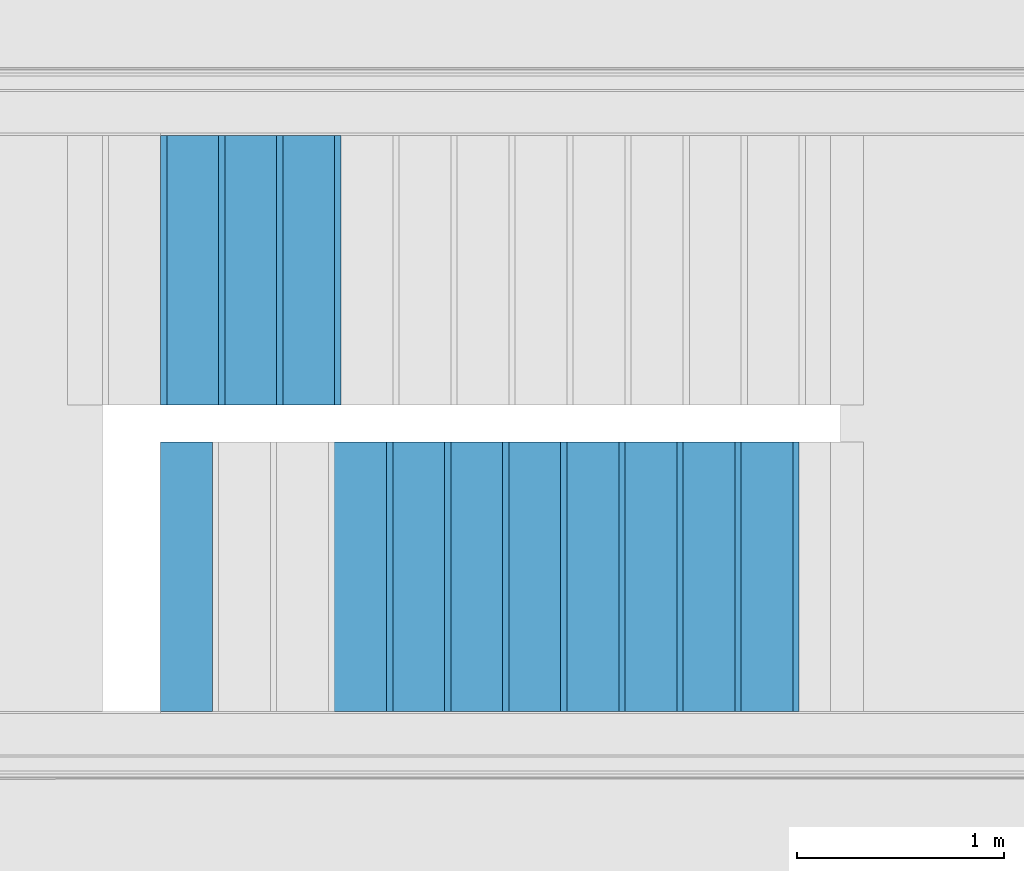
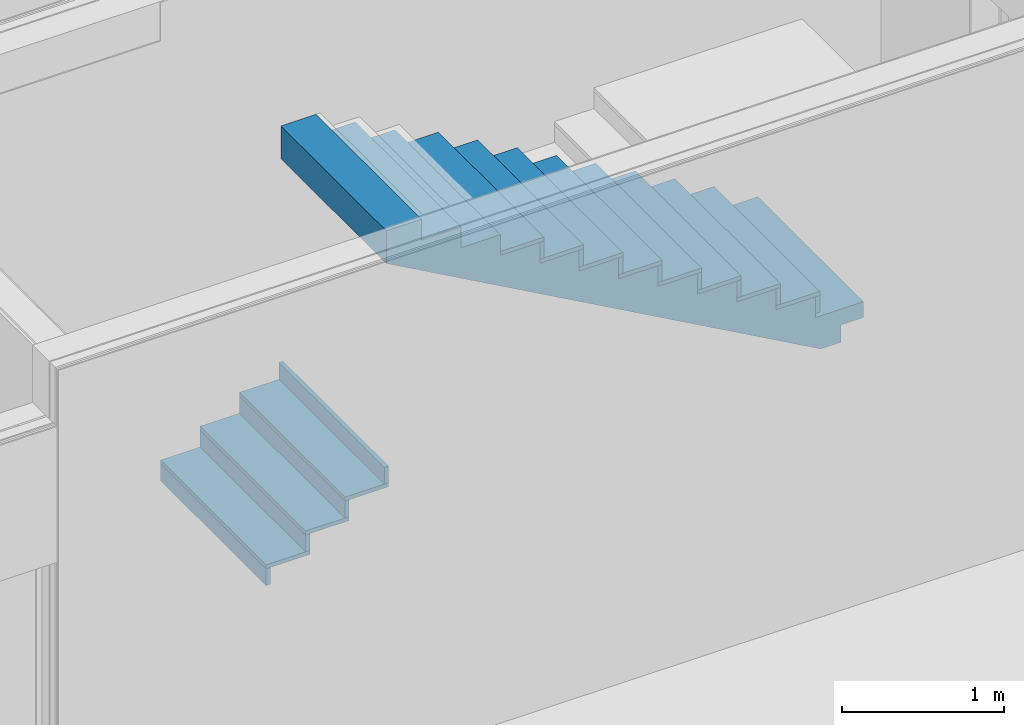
# One storey, part 44 of 139: 24 members, 1 element without a shape of its own.
"""IFC2X3 building model written with IfcOpenShell, lengths in millimetres."""

import ifcopenshell
import ifcopenshell.guid

model = None  # the IFC model being written
_history = None  # IfcOwnerHistory: only IFC2X3 demands one
_inside = {}  # id of a spatial element -> (the spatial element, [elements in it])
_under = {}  # id of a project, library or spatial element -> (it, [spatial elements below it])
_declared = {}  # id of a project -> (the project, [libraries it declares])
_typed = {}  # id of a type object -> (the type object, [elements of that type])
_made_of = {}  # id of a material, layer set ... -> (it, [elements and type objects made of it])


def new_model(schema):
    """Start an empty IFC model of exactly this schema.

    Asked for "IFC4X3", IfcOpenShell would pick the latest addendum, in which some entities
    have other attributes; the version numbers below select the first issue.
    IFC2X3 requires an IfcOwnerHistory on every rooted entity: one is made here for all.
    """
    global model, _history
    if schema == "IFC4X3":
        model = ifcopenshell.file(schema_version=(4, 3, 0, 0))
    else:
        model = ifcopenshell.file(schema=schema)
    _inside.clear()
    _under.clear()
    _declared.clear()
    _typed.clear()
    _made_of.clear()
    _history = None
    if model.schema == "IFC2X3":
        org = make("IfcOrganization", Name="unknown")
        user = make(
            "IfcPersonAndOrganization",
            ThePerson=make("IfcPerson", FamilyName="unknown"),
            TheOrganization=org,
        )
        app = make(
            "IfcApplication",
            ApplicationDeveloper=org,
            Version="unknown",
            ApplicationFullName="unknown",
            ApplicationIdentifier="unknown",
        )
        _history = make(
            "IfcOwnerHistory",
            OwningUser=user,
            OwningApplication=app,
            ChangeAction="ADDED",
            CreationDate=0,
        )
    return model


def make(cls, **values):
    """One entity of the class cls with the attributes given. An attribute that is None is left unset."""
    return model.create_entity(
        cls, **{name: value for name, value in values.items() if value is not None}
    )


def entity(cls, *values):
    """Any entity or typed value of the class cls, its attributes in the order of the schema. None: left unset."""
    e = model.create_entity(cls)
    for i, value in enumerate(values):
        if value is not None:
            e[i] = value
    return e


def rooted(cls, **values):
    """An entity with a GlobalId (a new one), such as an element, a storey or a relation."""
    return make(cls, GlobalId=ifcopenshell.guid.new(), OwnerHistory=_history, **values)


def si_unit(unit_type, name, prefix=None):
    """IfcSIUnit, for example si_unit("LENGTHUNIT", "METRE", prefix="MILLI")."""
    return make("IfcSIUnit", UnitType=unit_type, Prefix=prefix, Name=name)


def converted_unit(unit_type, name, factor, base, dimensions=None, offset=None):
    """IfcConversionBasedUnit, such as the inch: factor (a typed value) times the base unit."""
    return make(
        "IfcConversionBasedUnit"
        if offset is None
        else "IfcConversionBasedUnitWithOffset",
        ConversionOffset=offset,
        Dimensions=None
        if dimensions is None
        else entity("IfcDimensionalExponents", *dimensions),
        UnitType=unit_type,
        Name=name,
        ConversionFactor=make(
            "IfcMeasureWithUnit", ValueComponent=factor, UnitComponent=base
        ),
    )


def derived_unit(unit_type, elements):
    """IfcDerivedUnit: a product of units, each with its exponent."""
    return make(
        "IfcDerivedUnit",
        Elements=[
            make("IfcDerivedUnitElement", Unit=unit, Exponent=power)
            for unit, power in elements
        ],
        UnitType=unit_type,
    )


def money_unit(currency):
    """IfcMonetaryUnit."""
    return make("IfcMonetaryUnit", Currency=currency)


def assignment(units):
    """IfcUnitAssignment: the units of a project."""
    return None if units is None else make("IfcUnitAssignment", Units=units)


def point(xyz):
    """IfcCartesianPoint."""
    return None if xyz is None else make("IfcCartesianPoint", Coordinates=xyz)


def direction(xyz):
    """IfcDirection."""
    return None if xyz is None else make("IfcDirection", DirectionRatios=xyz)


def frame(location, z_axis=None, x_axis=None):
    """IfcAxis2Placement3D, a coordinate frame: its origin and axes. An axis left out is left unset."""
    return make(
        "IfcAxis2Placement3D",
        Location=point(location),
        Axis=direction(z_axis),
        RefDirection=direction(x_axis),
    )


def origin_with_axes():
    """The frame at (0, 0, 0) with the z axis (0, 0, 1) and the x axis (1, 0, 0) written out."""
    return frame((0.0, 0.0, 0.0), z_axis=(0.0, 0.0, 1.0), x_axis=(1.0, 0.0, 0.0))


def place(relative_to, where):
    """IfcLocalPlacement: puts the frame where relative to a parent placement (None: the world)."""
    return make(
        "IfcLocalPlacement", PlacementRelTo=relative_to, RelativePlacement=where
    )


def context(
    kind, dimensions, precision=None, world=None, true_north=None, identifier=None
):
    """IfcGeometricRepresentationContext, for example the 3D "Model" context."""
    return make(
        "IfcGeometricRepresentationContext",
        ContextIdentifier=identifier,
        ContextType=kind,
        CoordinateSpaceDimension=dimensions,
        Precision=precision,
        WorldCoordinateSystem=world,
        TrueNorth=true_north,
    )


def subcontext(parent, identifier, kind, view, scale=None):
    """IfcGeometricRepresentationSubContext, for example "Body" below "Model"."""
    return make(
        "IfcGeometricRepresentationSubContext",
        ContextIdentifier=identifier,
        ContextType=kind,
        ParentContext=parent,
        TargetScale=scale,
        TargetView=view,
    )


def project(units=None, contexts=None):
    """IfcProject with its units and contexts."""
    return rooted(
        "IfcProject",
        Name="project",
        RepresentationContexts=contexts,
        UnitsInContext=assignment(units),
    )


def spatial(cls, under=None, at=None, **own):
    """A site, building, storey or space (cls), placed at a placement, below another one or the project."""
    s = rooted(cls, ObjectPlacement=at, **own)
    if under is not None:
        _under.setdefault(under.id(), (under, []))[1].append(s)
    return s


def faces_of(points, faces, orient=None, outer=None):
    """IfcFace entities. A face is a list of loops; a loop is a list of indices into points, from 0.

    orient and outer hold one flag for each loop. By default every Orientation is true, the
    first loop of a face is its IfcFaceOuterBound and the others are IfcFaceBound.
    """
    made = []
    for i, loops in enumerate(faces):
        bounds = []
        for j, loop in enumerate(loops):
            is_outer = j == 0 if outer is None else outer[i][j]
            bounds.append(
                make(
                    "IfcFaceOuterBound" if is_outer else "IfcFaceBound",
                    Bound=make("IfcPolyLoop", Polygon=[points[k] for k in loop]),
                    Orientation=True if orient is None else orient[i][j],
                )
            )
        made.append(make("IfcFace", Bounds=bounds))
    return made


def faceted_brep(points, faces, orient=None, outer=None, voids=None):
    """IfcFacetedBrep: a solid bounded by flat faces; with voids (closed shells), ...WithVoids."""
    shared = [point(p) for p in points]
    hull = make("IfcClosedShell", CfsFaces=faces_of(shared, faces, orient, outer))
    if voids is None:
        return make("IfcFacetedBrep", Outer=hull)
    return make(
        "IfcFacetedBrepWithVoids",
        Outer=hull,
        Voids=[
            make(cls, CfsFaces=faces_of(shared, fs, o, b)) for cls, fs, o, b in voids
        ],
    )


def shape(context_of_items, identifier, shape_type, items):
    """IfcShapeRepresentation: the items that make up one representation, for example the "Body"."""
    return make(
        "IfcShapeRepresentation",
        ContextOfItems=context_of_items,
        RepresentationIdentifier=identifier,
        RepresentationType=shape_type,
        Items=items,
    )


def material(Name=None, Category=None):
    """IfcMaterial."""
    return make("IfcMaterial", Name=Name, Category=Category)


def made_of(thing, what):
    """Note that an element or type object is made of a material, layer set ...; save() writes the relation."""
    if what is not None:
        _made_of.setdefault(what.id(), (what, []))[1].append(thing)
    return thing


def type_object(cls, material=None, **own):
    """A type object (cls), such as IfcWallType, which elements share."""
    return made_of(rooted(cls, **own), material)


def element(
    cls,
    number,
    at=None,
    inside=None,
    cuts=None,
    type_object=None,
    material=None,
    context=None,
    identifier="Body",
    shape_type=None,
    held_by="IfcProductDefinitionShape",
    body=None,
    shapes=None,
    **own,
):
    """One element of the class cls, such as IfcWall. Its Tag is "e" and its number.

    at: its placement. inside: the storey or other place that contains it. cuts: it is an
    opening in that element (IfcRelVoidsElement). A single representation is given by context,
    identifier, shape_type and body (its items); several are given by shapes. held_by: the class
    of the entity that holds the representations. save() writes the other relations.
    """
    e = rooted(cls, Tag="e%d" % number, ObjectPlacement=at, **own)
    if body is not None:
        shapes = [shape(context, identifier, shape_type, body)]
    if shapes is not None:
        e.Representation = make(held_by, Representations=shapes)
    if inside is not None:
        _inside.setdefault(inside.id(), (inside, []))[1].append(e)
    if cuts is not None:
        rooted(
            "IfcRelVoidsElement", RelatingBuildingElement=cuts, RelatedOpeningElement=e
        )
    if type_object is not None:
        _typed.setdefault(type_object.id(), (type_object, []))[1].append(e)
    return made_of(e, material)


def aggregate(whole, parts):
    """IfcRelAggregates: a whole, such as a stair, and the parts it consists of."""
    return rooted("IfcRelAggregates", RelatingObject=whole, RelatedObjects=parts)


def save(model, path):
    """Write the relations noted so far, then the file.

    IfcRelAggregates (storeys below a building ...), IfcRelContainedInSpatialStructure (elements
    in a storey), IfcRelDefinesByType, IfcRelAssociatesMaterial and IfcRelDeclares: one each for
    every whole, place, type object, material and project.
    """
    for whole, parts in _under.values():
        aggregate(whole, parts)
    for where, things in _inside.values():
        rooted(
            "IfcRelContainedInSpatialStructure",
            RelatedElements=things,
            RelatingStructure=where,
        )
    for kind, things in _typed.values():
        rooted("IfcRelDefinesByType", RelatedObjects=things, RelatingType=kind)
    for what, things in _made_of.values():
        rooted("IfcRelAssociatesMaterial", RelatedObjects=things, RelatingMaterial=what)
    for by, libraries in _declared.values():
        rooted("IfcRelDeclares", RelatingContext=by, RelatedDefinitions=libraries)
    model.write(path)


model = new_model("IFC2X3")

# Units and contexts
model_context = context("Model", 3, precision=0.01, world=origin_with_axes(), true_north=direction((0.0, 1.0)))
body_context = subcontext(model_context, "Body", "Model", "MODEL_VIEW")
ifc_project = project(units=[si_unit("LENGTHUNIT", "METRE", prefix="MILLI"), si_unit("AREAUNIT", "SQUARE_METRE"), si_unit("VOLUMEUNIT", "CUBIC_METRE"), converted_unit("PLANEANGLEUNIT", "DEGREE", entity("IfcPlaneAngleMeasure", 0.0174532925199), si_unit("PLANEANGLEUNIT", "RADIAN"), dimensions=[0, 0, 0, 0, 0, 0, 0]), money_unit("EUR"), converted_unit("TIMEUNIT", "Year", entity("IfcTimeMeasure", 31556926.0), si_unit("TIMEUNIT", "SECOND"), dimensions=[0, 0, 1, 0, 0, 0, 0]), si_unit("MASSUNIT", "GRAM", prefix="KILO"), si_unit("THERMODYNAMICTEMPERATUREUNIT", "DEGREE_CELSIUS"), si_unit("LUMINOUSINTENSITYUNIT", "LUMEN"), si_unit("ENERGYUNIT", "JOULE", prefix="MEGA"), derived_unit("THERMALCONDUCTANCEUNIT", [(si_unit("POWERUNIT", "WATT"), 1), (si_unit("LENGTHUNIT", "METRE"), -1), (si_unit("THERMODYNAMICTEMPERATUREUNIT", "KELVIN"), -1)]), derived_unit("SPECIFICHEATCAPACITYUNIT", [(si_unit("ENERGYUNIT", "JOULE"), 1), (si_unit("MASSUNIT", "GRAM", prefix="KILO"), -1), (si_unit("THERMODYNAMICTEMPERATUREUNIT", "KELVIN"), -1)]), derived_unit("MASSDENSITYUNIT", [(si_unit("MASSUNIT", "GRAM", prefix="KILO"), 1), (si_unit("VOLUMEUNIT", "CUBIC_METRE"), -1)])], contexts=[model_context])

# Site, building, storey
site_placement = place(None, origin_with_axes())
site = spatial("IfcSite", under=ifc_project, at=site_placement, Name="Kolde pst 67a", CompositionType="ELEMENT")
building_placement = place(site_placement, origin_with_axes())
building = spatial("IfcBuilding", under=site, at=building_placement, Name="Riigigümnaasium", CompositionType="ELEMENT")
storey_placement = place(building_placement, frame((0.0, 0.0, 4600.0), z_axis=(0.0, 0.0, 1.0), x_axis=(1.0, 0.0, 0.0)))
storey = spatial("IfcBuildingStorey", under=building, at=storey_placement, Name="2. korrus", CompositionType="ELEMENT", Elevation=4600.0)

# Stair, members
stair_placement = place(storey_placement, frame((78829.6164915, 9409.92216773, 0.0), z_axis=(0.0, 0.0, 1.0), x_axis=(0.999999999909, 1.34692449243e-05, 0.0)))
stair = element("IfcStair", 1, at=stair_placement, inside=storey, Name="TREPP", ShapeType="NOTDEFINED")
ifc_material_1 = material(Name="_KANDETARIND - raudbetoon C25/30 vastavalt EK osale")
member_type_1 = type_object("IfcMemberType", Name="IfcMember", PredefinedType="USERDEFINED")
member_1_placement = place(stair_placement, origin_with_axes())
member_1 = element("IfcMember", 2, at=member_1_placement, type_object=member_type_1, material=ifc_material_1, Name="TT KONSTRUKTSIOON - 009", ObjectType="Stair Structure", context=body_context, shape_type="Brep", body=[
    faceted_brep([(3359.99730585, -200.045179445, 1755.47584433), (3359.99730585, -1500.04519461, 1755.47584433), (3266.6639737, -1500.04519461, 1807.55917662), (3266.6639737, -200.045179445, 1807.55917662), (3367.57001894, -200.045179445, 1751.25), (3367.57001894, -1500.04519461, 1751.25), (3509.99730585, -1500.04519461, 1751.25), (3509.99730585, -1500.04519461, 1881.25), (3669.99729576, -1500.04519461, 1881.25), (3669.99729576, -1500.04519461, 2001.25), (3359.99730585, -1500.04519461, 2001.25), (3329.99730585, -1500.04519461, 2001.25), (3329.99730585, -1500.04519461, 2157.5), (3049.99730585, -1500.04519461, 2157.5), (3049.99730585, -1500.04519461, 2313.75), (2769.99730585, -1500.04519461, 2313.75), (2769.99730585, -1500.04519461, 2470.0), (2489.99730585, -1500.04519461, 2470.0), (2489.99730585, -1500.04519461, 2626.25), (2209.99730585, -1500.04519461, 2626.25), (2209.99730585, -1500.04519461, 2782.5), (1929.99730585, -1500.04519461, 2782.5), (1929.99730585, -1500.04519461, 2938.75), (1649.99730585, -1500.04519461, 2938.75), (1649.99730585, -1500.04519461, 3095.0), (1369.99730585, -1500.04519461, 3095.0), (1369.99730585, -1500.04519461, 3251.25), (1089.99730585, -1500.04519461, 3251.25), (1089.99730585, -1500.04519461, 3407.5), (809.997305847, -1500.04519461, 3407.5), (809.997305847, -1500.04519461, 3563.75), (529.997305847, -1500.04519461, 3563.75), (529.997305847, -1500.04519461, 3720.0), (279.997305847, -1500.04519461, 3720.0), (279.997305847, -1500.04519461, 3474.22584289), (373.33063918, -1500.04519461, 3422.14250956), (466.663972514, -1500.04519461, 3370.05917622), (559.997305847, -1500.04519461, 3317.97584289), (653.33063918, -1500.04519461, 3265.89250956), (746.663972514, -1500.04519461, 3213.80917622), (839.997305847, -1500.04519461, 3161.72584289), (933.33063918, -1500.04519461, 3109.64250956), (1026.66397251, -1500.04519461, 3057.55917622), (1119.99730585, -1500.04519461, 3005.47584289), (1213.33063918, -1500.04519461, 2953.39250956), (1306.66397251, -1500.04519461, 2901.30917622), (1399.99730585, -1500.04519461, 2849.22584289), (1493.33063918, -1500.04519461, 2797.14250956), (1586.66397251, -1500.04519461, 2745.05917622), (1679.99730585, -1500.04519461, 2692.97584289), (1773.33063918, -1500.04519461, 2640.89250956), (1866.66397251, -1500.04519461, 2588.80917622), (1959.99730585, -1500.04519461, 2536.72584289), (2053.33063918, -1500.04519461, 2484.64250956), (2146.66397251, -1500.04519461, 2432.55917622), (2239.99730585, -1500.04519461, 2380.47584289), (2333.33063918, -1500.04519461, 2328.39250955), (2426.66397251, -1500.04519461, 2276.30917622), (2519.99730585, -1500.04519461, 2224.22584288), (2613.33063918, -1500.04519461, 2172.14250954), (2706.66397251, -1500.04519461, 2120.0591762), (2799.99730585, -1500.04519461, 2067.97584287), (2893.33063918, -1500.04519461, 2015.89250965), (2986.66397251, -1500.04519461, 1963.80917643), (3079.99730585, -1500.04519461, 1911.72584324), (3173.33063977, -1500.04519461, 1859.64250991), (3173.33063977, -200.045179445, 1859.64250991), (3329.99730585, -200.04519841, 2001.25), (3359.99730585, -200.045179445, 2001.25), (3669.99729576, -200.045179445, 2001.25), (3669.99729576, -200.045179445, 1881.25), (3509.99730585, -200.045179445, 1881.25), (3509.99730585, -200.045179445, 1751.25), (3079.99730585, -200.045179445, 1911.72584324), (2986.66397251, -200.045194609, 1963.80917643), (2893.33063918, -200.045194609, 2015.89250965), (2799.99730585, -200.045194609, 2067.97584287), (2706.66397251, -200.045194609, 2120.0591762), (2613.33063918, -200.045194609, 2172.14250954), (2519.99730585, -200.045194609, 2224.22584288), (2426.66397251, -200.045194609, 2276.30917622), (2333.33063918, -200.045194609, 2328.39250955), (2239.99730585, -200.045194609, 2380.47584289), (2146.66397251, -200.045194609, 2432.55917622), (2053.33063918, -200.045194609, 2484.64250956), (1959.99730585, -200.045194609, 2536.72584289), (1866.66397251, -200.045194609, 2588.80917622), (1773.33063918, -200.045194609, 2640.89250956), (1679.99730585, -200.045194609, 2692.97584289), (1586.66397251, -200.045194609, 2745.05917622), (1493.33063918, -200.045194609, 2797.14250956), (1399.99730585, -200.045194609, 2849.22584289), (1306.66397251, -200.045194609, 2901.30917622), (1213.33063918, -200.045194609, 2953.39250956), (1119.99730585, -200.045194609, 3005.47584289), (1026.66397251, -200.045194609, 3057.55917622), (933.33063918, -200.045194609, 3109.64250956), (839.997305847, -200.045194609, 3161.72584289), (746.663972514, -200.045194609, 3213.80917622), (653.33063918, -200.045194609, 3265.89250956), (559.997305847, -200.045194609, 3317.97584289), (466.663972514, -200.045194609, 3370.05917622), (373.33063918, -200.045194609, 3422.14250956), (279.997305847, -200.045194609, 3474.22584289), (279.997305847, -200.045194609, 3720.0), (529.997305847, -200.045194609, 3720.0), (529.997305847, -200.045194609, 3563.75), (809.997305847, -200.045194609, 3563.75), (809.997305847, -200.045194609, 3407.5), (1089.99730585, -200.045194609, 3407.5), (1089.99730585, -200.045194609, 3251.25), (1369.99730585, -200.045194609, 3251.25), (1369.99730585, -200.045194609, 3095.0), (1649.99730585, -200.045194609, 3095.0), (1649.99730585, -200.045194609, 2938.75), (1929.99730585, -200.045194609, 2938.75), (1929.99730585, -200.045194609, 2782.5), (2209.99730585, -200.045194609, 2782.5), (2209.99730585, -200.045194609, 2626.25), (2489.99730585, -200.045194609, 2626.25), (2489.99730585, -200.045194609, 2470.0), (2769.99730585, -200.045194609, 2470.0), (2769.99730585, -200.045194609, 2313.75), (3049.99730585, -200.045194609, 2313.75), (3049.99730585, -200.045194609, 2157.5), (3329.99730585, -200.04519841, 2157.5)], [[[0, 1, 2, 3]], [[1, 0, 4, 5]], [[2, 1, 5, 6, 7, 8, 9, 10, 11, 12, 13, 14, 15, 16, 17, 18, 19, 20, 21, 22, 23, 24, 25, 26, 27, 28, 29, 30, 31, 32, 33, 34, 35, 36, 37, 38, 39, 40, 41, 42, 43, 44, 45, 46, 47, 48, 49, 50, 51, 52, 53, 54, 55, 56, 57, 58, 59, 60, 61, 62, 63, 64, 65]], [[65, 66, 3, 2]], [[67, 68, 69, 70, 71, 72, 4, 0, 3, 66, 73, 74, 75, 76, 77, 78, 79, 80, 81, 82, 83, 84, 85, 86, 87, 88, 89, 90, 91, 92, 93, 94, 95, 96, 97, 98, 99, 100, 101, 102, 103, 104, 105, 106, 107, 108, 109, 110, 111, 112, 113, 114, 115, 116, 117, 118, 119, 120, 121, 122, 123, 124, 125]], [[6, 5, 4, 72]], [[6, 72, 71, 7]], [[7, 71, 70, 8]], [[70, 69, 9, 8]], [[11, 10, 9, 69, 68, 67]], [[67, 125, 12, 11]], [[125, 124, 13, 12]], [[124, 123, 14, 13]], [[123, 122, 15, 14]], [[122, 121, 16, 15]], [[121, 120, 17, 16]], [[120, 119, 18, 17]], [[119, 118, 19, 18]], [[118, 117, 20, 19]], [[117, 116, 21, 20]], [[116, 115, 22, 21]], [[115, 114, 23, 22]], [[114, 113, 24, 23]], [[113, 112, 25, 24]], [[112, 111, 26, 25]], [[111, 110, 27, 26]], [[110, 109, 28, 27]], [[109, 108, 29, 28]], [[108, 107, 30, 29]], [[107, 106, 31, 30]], [[106, 105, 32, 31]], [[104, 33, 32, 105]], [[34, 33, 104, 103]], [[34, 103, 102, 35]], [[35, 102, 101, 36]], [[36, 101, 100, 37]], [[37, 100, 99, 38]], [[38, 99, 98, 39]], [[39, 98, 97, 40]], [[40, 97, 96, 41]], [[41, 96, 95, 42]], [[42, 95, 94, 43]], [[43, 94, 93, 44]], [[44, 93, 92, 45]], [[45, 92, 91, 46]], [[46, 91, 90, 47]], [[47, 90, 89, 48]], [[48, 89, 88, 49]], [[49, 88, 87, 50]], [[50, 87, 86, 51]], [[51, 86, 85, 52]], [[52, 85, 84, 53]], [[53, 84, 83, 54]], [[54, 83, 82, 55]], [[55, 82, 81, 56]], [[56, 81, 80, 57]], [[57, 80, 79, 58]], [[58, 79, 78, 59]], [[59, 78, 77, 60]], [[60, 77, 76, 61]], [[61, 76, 75, 62]], [[62, 75, 74, 63]], [[63, 74, 73, 64]], [[64, 73, 66, 65]]]),
])
ifc_material_2 = material(Name="_VIIMISTLUSKIHT - viimistlus vastavalt SA osale")
member_type_2 = type_object("IfcMemberType", Name="IfcMember", PredefinedType="USERDEFINED")
member_2_placement = place(stair_placement, frame((280.008743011, 649.99623371, 282.5), z_axis=(0.0, 0.0, 1.0), x_axis=(1.34508253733e-05, 0.99999999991, 0.0)))
member_2 = element("IfcMember", 3, at=member_2_placement, type_object=member_type_2, material=ifc_material_2, Name="TV TÕUS - 118", ObjectType="Stair Riser", context=body_context, shape_type="Brep", body=[
    faceted_brep([(629.949534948, 0.0, 0.0), (-670.0, 0.0, 0.0), (-670.0, -30.0, 0.0), (629.949534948, -30.0, 0.0), (629.949534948, 0.0, -126.25), (-670.0, 0.0, -126.25), (-670.0, -30.0, -126.25), (629.949534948, -30.0, -126.25)], [[[0, 1, 2, 3]], [[4, 5, 1, 0]], [[1, 5, 6, 2]], [[3, 2, 6, 7]], [[0, 3, 7, 4]], [[7, 6, 5, 4]]]),
])
member_3_placement = place(stair_placement, frame((560.008742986, 649.992467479, 438.75), z_axis=(0.0, 0.0, 1.0), x_axis=(1.34508253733e-05, 0.99999999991, 0.0)))
member_3 = element("IfcMember", 4, at=member_3_placement, type_object=member_type_2, material=ifc_material_2, Name="TV TÕUS - 119", ObjectType="Stair Riser", context=body_context, shape_type="Brep", body=[
    faceted_brep([(629.949534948, 0.0, 0.0), (-670.0, 0.0, 0.0), (-670.0, -30.0, 0.0), (629.949534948, -30.0, 0.0), (629.949534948, 0.0, -126.25), (-670.0, 0.0, -126.25), (-670.0, -30.0, -126.25), (629.949534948, -30.0, -126.25)], [[[0, 1, 2, 3]], [[4, 5, 1, 0]], [[1, 5, 6, 2]], [[3, 2, 6, 7]], [[0, 3, 7, 4]], [[7, 6, 5, 4]]]),
])
member_4_placement = place(stair_placement, frame((840.008742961, 649.988701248, 595.0), z_axis=(0.0, 0.0, 1.0), x_axis=(1.34508253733e-05, 0.99999999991, 0.0)))
member_4 = element("IfcMember", 5, at=member_4_placement, type_object=member_type_2, material=ifc_material_2, Name="TV TÕUS - 120", ObjectType="Stair Riser", context=body_context, shape_type="Brep", body=[
    faceted_brep([(629.949534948, 0.0, 0.0), (-670.0, 0.0, 0.0), (-670.0, -30.0, 0.0), (629.949534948, -30.0, 0.0), (629.949534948, 0.0, -126.25), (-670.0, 0.0, -126.25), (-670.0, -30.0, -126.25), (629.949534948, -30.0, -126.25)], [[[0, 1, 2, 3]], [[4, 5, 1, 0]], [[1, 5, 6, 2]], [[3, 2, 6, 7]], [[0, 3, 7, 4]], [[7, 6, 5, 4]]]),
])
member_5_placement = place(stair_placement, frame((1120.00874294, 649.984935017, 751.25), z_axis=(0.0, 0.0, 1.0), x_axis=(1.34508253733e-05, 0.99999999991, 0.0)))
member_5 = element("IfcMember", 6, at=member_5_placement, type_object=member_type_2, material=ifc_material_2, Name="TV TÕUS - 121", ObjectType="Stair Riser", context=body_context, shape_type="Brep", body=[
    faceted_brep([(629.949534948, 0.0, 0.0), (-670.0, 0.0, 0.0), (-670.0, -30.0, 0.0), (629.949534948, -30.0, 0.0), (629.949534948, 0.0, -126.25), (-670.0, 0.0, -126.25), (-670.0, -30.0, -126.25), (629.949534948, -30.0, -126.25)], [[[0, 1, 2, 3]], [[4, 5, 1, 0]], [[1, 5, 6, 2]], [[3, 2, 6, 7]], [[0, 3, 7, 4]], [[7, 6, 5, 4]]]),
])
member_6_placement = place(stair_placement, frame((3359.99730585, -850.045194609, 2157.5), z_axis=(0.0, 0.0, 1.0), x_axis=(0.0, -1.0, 0.0)))
member_6 = element("IfcMember", 7, at=member_6_placement, type_object=member_type_2, material=ifc_material_2, Name="TV TÕUS - 129", ObjectType="Stair Riser", context=body_context, shape_type="Brep", body=[
    faceted_brep([(650.0, -30.0, 0.0), (650.0, 0.0, 0.0), (-650.000000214, 0.0, 0.0), (-650.000000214, -30.0, 0.0), (650.0, 0.0, -126.25), (650.0, -30.0, -126.25), (-650.000000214, 0.0, -126.25), (-650.000000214, -30.0, -126.25)], [[[0, 1, 2, 3]], [[4, 1, 0, 5]], [[1, 4, 6, 2]], [[3, 2, 6, 7]], [[5, 0, 3, 7]], [[4, 5, 7, 6]]]),
])
member_7_placement = place(stair_placement, frame((3079.99730585, -850.045194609, 2313.75), z_axis=(0.0, 0.0, 1.0), x_axis=(0.0, -1.0, 0.0)))
member_7 = element("IfcMember", 8, at=member_7_placement, type_object=member_type_2, material=ifc_material_2, Name="TV TÕUS - 130", ObjectType="Stair Riser", context=body_context, shape_type="Brep", body=[
    faceted_brep([(650.0, 0.0, 0.0), (-650.000000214, 0.0, 0.0), (-650.000000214, -30.0, 0.0), (650.0, -30.0, 0.0), (650.0, 0.0, -126.25), (-650.000000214, 0.0, -126.25), (-650.000000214, -30.0, -126.25), (650.0, -30.0, -126.25)], [[[0, 1, 2, 3]], [[4, 5, 1, 0]], [[1, 5, 6, 2]], [[3, 2, 6, 7]], [[0, 3, 7, 4]], [[7, 6, 5, 4]]]),
])
member_8_placement = place(stair_placement, frame((2799.99730585, -850.045194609, 2470.0), z_axis=(0.0, 0.0, 1.0), x_axis=(0.0, -1.0, 0.0)))
member_8 = element("IfcMember", 9, at=member_8_placement, type_object=member_type_2, material=ifc_material_2, Name="TV TÕUS - 131", ObjectType="Stair Riser", context=body_context, shape_type="Brep", body=[
    faceted_brep([(650.0, 0.0, 0.0), (-650.000000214, 0.0, 0.0), (-650.000000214, -30.0, 0.0), (650.0, -30.0, 0.0), (650.0, 0.0, -126.25), (-650.000000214, 0.0, -126.25), (-650.000000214, -30.0, -126.25), (650.0, -30.0, -126.25)], [[[0, 1, 2, 3]], [[4, 5, 1, 0]], [[1, 5, 6, 2]], [[3, 2, 6, 7]], [[0, 3, 7, 4]], [[7, 6, 5, 4]]]),
])
member_9_placement = place(stair_placement, frame((2519.99730585, -850.045194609, 2626.25), z_axis=(0.0, 0.0, 1.0), x_axis=(0.0, -1.0, 0.0)))
member_9 = element("IfcMember", 10, at=member_9_placement, type_object=member_type_2, material=ifc_material_2, Name="TV TÕUS - 132", ObjectType="Stair Riser", context=body_context, shape_type="Brep", body=[
    faceted_brep([(650.0, 0.0, 0.0), (-650.000000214, 0.0, 0.0), (-650.000000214, -30.0, 0.0), (650.0, -30.0, 0.0), (650.0, 0.0, -126.25), (-650.000000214, 0.0, -126.25), (-650.000000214, -30.0, -126.25), (650.0, -30.0, -126.25)], [[[0, 1, 2, 3]], [[4, 5, 1, 0]], [[1, 5, 6, 2]], [[3, 2, 6, 7]], [[0, 3, 7, 4]], [[7, 6, 5, 4]]]),
])
member_10_placement = place(stair_placement, frame((2239.99730585, -850.045194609, 2782.5), z_axis=(0.0, 0.0, 1.0), x_axis=(0.0, -1.0, 0.0)))
member_10 = element("IfcMember", 11, at=member_10_placement, type_object=member_type_2, material=ifc_material_2, Name="TV TÕUS - 133", ObjectType="Stair Riser", context=body_context, shape_type="Brep", body=[
    faceted_brep([(650.0, 0.0, 0.0), (-650.000000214, 0.0, 0.0), (-650.000000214, -30.0, 0.0), (650.0, -30.0, 0.0), (650.0, 0.0, -126.25), (-650.000000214, 0.0, -126.25), (-650.000000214, -30.0, -126.25), (650.0, -30.0, -126.25)], [[[0, 1, 2, 3]], [[4, 5, 1, 0]], [[1, 5, 6, 2]], [[3, 2, 6, 7]], [[0, 3, 7, 4]], [[7, 6, 5, 4]]]),
])
member_11_placement = place(stair_placement, frame((1959.99730585, -850.045194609, 2938.75), z_axis=(0.0, 0.0, 1.0), x_axis=(0.0, -1.0, 0.0)))
member_11 = element("IfcMember", 12, at=member_11_placement, type_object=member_type_2, material=ifc_material_2, Name="TV TÕUS - 134", ObjectType="Stair Riser", context=body_context, shape_type="Brep", body=[
    faceted_brep([(650.0, 0.0, 0.0), (-650.000000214, 0.0, 0.0), (-650.000000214, -30.0, 0.0), (650.0, -30.0, 0.0), (650.0, 0.0, -126.25), (-650.000000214, 0.0, -126.25), (-650.000000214, -30.0, -126.25), (650.0, -30.0, -126.25)], [[[0, 1, 2, 3]], [[4, 5, 1, 0]], [[1, 5, 6, 2]], [[3, 2, 6, 7]], [[0, 3, 7, 4]], [[7, 6, 5, 4]]]),
])
member_12_placement = place(stair_placement, frame((1679.99730585, -850.045194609, 3095.0), z_axis=(0.0, 0.0, 1.0), x_axis=(0.0, -1.0, 0.0)))
member_12 = element("IfcMember", 13, at=member_12_placement, type_object=member_type_2, material=ifc_material_2, Name="TV TÕUS - 135", ObjectType="Stair Riser", context=body_context, shape_type="Brep", body=[
    faceted_brep([(650.0, 0.0, 0.0), (-650.000000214, 0.0, 0.0), (-650.000000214, -30.0, 0.0), (650.0, -30.0, 0.0), (650.0, 0.0, -126.25), (-650.000000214, 0.0, -126.25), (-650.000000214, -30.0, -126.25), (650.0, -30.0, -126.25)], [[[0, 1, 2, 3]], [[4, 5, 1, 0]], [[1, 5, 6, 2]], [[3, 2, 6, 7]], [[0, 3, 7, 4]], [[7, 6, 5, 4]]]),
])
member_13_placement = place(stair_placement, frame((1399.99730585, -850.045194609, 3251.25), z_axis=(0.0, 0.0, 1.0), x_axis=(0.0, -1.0, 0.0)))
member_13 = element("IfcMember", 14, at=member_13_placement, type_object=member_type_2, material=ifc_material_2, Name="TV TÕUS - 136", ObjectType="Stair Riser", context=body_context, shape_type="Brep", body=[
    faceted_brep([(650.0, 0.0, 0.0), (-650.000000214, 0.0, 0.0), (-650.000000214, -30.0, 0.0), (650.0, -30.0, 0.0), (650.0, 0.0, -126.25), (-650.000000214, 0.0, -126.25), (-650.000000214, -30.0, -126.25), (650.0, -30.0, -126.25)], [[[0, 1, 2, 3]], [[4, 5, 1, 0]], [[1, 5, 6, 2]], [[3, 2, 6, 7]], [[0, 3, 7, 4]], [[7, 6, 5, 4]]]),
])
member_type_3 = type_object("IfcMemberType", Name="IfcMember", PredefinedType="USERDEFINED")
member_14_placement = place(stair_placement, frame((280.008743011, 649.99623371, 312.5), z_axis=(0.0, 0.0, 1.0), x_axis=(1.34508253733e-05, 0.99999999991, 0.0)))
member_14 = element("IfcMember", 15, at=member_14_placement, type_object=member_type_3, material=ifc_material_2, Name="TV ASTE - 118", ObjectType="Stair Tread", context=body_context, shape_type="Brep", body=[
    faceted_brep([(-670.0, 0.0, -30.0), (-670.0, 0.0, 0.0), (629.949534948, 0.0, 0.0), (629.949534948, 0.0, -30.0), (-670.0, -310.000006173, -30.0), (-670.0, -310.000006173, 0.0), (629.949534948, -309.999993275, 0.0), (629.949534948, -309.999993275, -30.0)], [[[0, 1, 2, 3]], [[4, 5, 1, 0]], [[1, 5, 6, 2]], [[3, 2, 6, 7]], [[0, 3, 7, 4]], [[7, 6, 5, 4]]]),
])
member_15_placement = place(stair_placement, frame((560.008742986, 649.992467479, 468.75), z_axis=(0.0, 0.0, 1.0), x_axis=(1.34508253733e-05, 0.99999999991, 0.0)))
member_15 = element("IfcMember", 16, at=member_15_placement, type_object=member_type_3, material=ifc_material_2, Name="TV ASTE - 119", ObjectType="Stair Tread", context=body_context, shape_type="Brep", body=[
    faceted_brep([(-670.0, 0.0, -30.0), (-670.0, 0.0, 0.0), (629.949534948, 0.0, 0.0), (629.949534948, 0.0, -30.0), (-670.0, -310.000006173, -30.0), (-670.0, -310.000006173, 0.0), (629.949534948, -309.999993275, 0.0), (629.949534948, -309.999993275, -30.0)], [[[0, 1, 2, 3]], [[4, 5, 1, 0]], [[1, 5, 6, 2]], [[3, 2, 6, 7]], [[0, 3, 7, 4]], [[7, 6, 5, 4]]]),
])
member_16_placement = place(stair_placement, frame((840.008742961, 649.988701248, 625.0), z_axis=(0.0, 0.0, 1.0), x_axis=(1.34508253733e-05, 0.99999999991, 0.0)))
member_16 = element("IfcMember", 17, at=member_16_placement, type_object=member_type_3, material=ifc_material_2, Name="TV ASTE - 120", ObjectType="Stair Tread", context=body_context, shape_type="Brep", body=[
    faceted_brep([(-670.0, 0.0, -30.0), (-670.0, 0.0, 0.0), (629.949534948, 0.0, 0.0), (629.949534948, 0.0, -30.0), (-670.0, -310.000006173, -30.0), (-670.0, -310.000006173, 0.0), (629.949534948, -309.999993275, 0.0), (629.949534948, -309.999993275, -30.0)], [[[0, 1, 2, 3]], [[4, 5, 1, 0]], [[1, 5, 6, 2]], [[3, 2, 6, 7]], [[0, 3, 7, 4]], [[7, 6, 5, 4]]]),
])
member_17_placement = place(stair_placement, frame((3359.99730585, -850.045194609, 2187.5), z_axis=(0.0, 0.0, 1.0), x_axis=(0.0, -1.0, 0.0)))
member_17 = element("IfcMember", 18, at=member_17_placement, type_object=member_type_3, material=ifc_material_2, Name="TV ASTE - 129", ObjectType="Stair Tread", context=body_context, shape_type="Brep", body=[
    faceted_brep([(650.0, -310.0, -30.0), (650.0, 5.96047300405e-06, -30.0), (650.0, 5.96047300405e-06, 0.0), (650.0, -310.0, 0.0), (-650.0, 5.96047300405e-06, -30.0), (-650.0, -310.0, -30.0), (-650.0, 5.96047300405e-06, 0.0), (-650.0, -310.0, 0.0)], [[[0, 1, 2, 3]], [[4, 1, 0, 5]], [[1, 4, 6, 2]], [[3, 2, 6, 7]], [[5, 0, 3, 7]], [[4, 5, 7, 6]]]),
])
member_18_placement = place(stair_placement, frame((3079.99730585, -850.045194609, 2343.75), z_axis=(0.0, 0.0, 1.0), x_axis=(0.0, -1.0, 0.0)))
member_18 = element("IfcMember", 19, at=member_18_placement, type_object=member_type_3, material=ifc_material_2, Name="TV ASTE - 130", ObjectType="Stair Tread", context=body_context, shape_type="Brep", body=[
    faceted_brep([(-650.0, 0.0, -30.0), (-650.0, 0.0, 0.0), (650.0, 0.0, 0.0), (650.0, 0.0, -30.0), (-650.0, -310.0, -30.0), (-650.0, -310.0, 0.0), (650.0, -310.0, 0.0), (650.0, -310.0, -30.0)], [[[0, 1, 2, 3]], [[4, 5, 1, 0]], [[1, 5, 6, 2]], [[3, 2, 6, 7]], [[0, 3, 7, 4]], [[7, 6, 5, 4]]]),
])
member_19_placement = place(stair_placement, frame((2799.99730585, -850.045194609, 2500.0), z_axis=(0.0, 0.0, 1.0), x_axis=(0.0, -1.0, 0.0)))
member_19 = element("IfcMember", 20, at=member_19_placement, type_object=member_type_3, material=ifc_material_2, Name="TV ASTE - 131", ObjectType="Stair Tread", context=body_context, shape_type="Brep", body=[
    faceted_brep([(-650.0, 0.0, -30.0), (-650.0, 0.0, 0.0), (650.0, 0.0, 0.0), (650.0, 0.0, -30.0), (-650.0, -310.0, -30.0), (-650.0, -310.0, 0.0), (650.0, -310.0, 0.0), (650.0, -310.0, -30.0)], [[[0, 1, 2, 3]], [[4, 5, 1, 0]], [[1, 5, 6, 2]], [[3, 2, 6, 7]], [[0, 3, 7, 4]], [[7, 6, 5, 4]]]),
])
member_20_placement = place(stair_placement, frame((2519.99730585, -850.045194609, 2656.25), z_axis=(0.0, 0.0, 1.0), x_axis=(0.0, -1.0, 0.0)))
member_20 = element("IfcMember", 21, at=member_20_placement, type_object=member_type_3, material=ifc_material_2, Name="TV ASTE - 132", ObjectType="Stair Tread", context=body_context, shape_type="Brep", body=[
    faceted_brep([(-650.0, 0.0, -30.0), (-650.0, 0.0, 0.0), (650.0, 0.0, 0.0), (650.0, 0.0, -30.0), (-650.0, -310.0, -30.0), (-650.0, -310.0, 0.0), (650.0, -310.0, 0.0), (650.0, -310.0, -30.0)], [[[0, 1, 2, 3]], [[4, 5, 1, 0]], [[1, 5, 6, 2]], [[3, 2, 6, 7]], [[0, 3, 7, 4]], [[7, 6, 5, 4]]]),
])
member_21_placement = place(stair_placement, frame((2239.99730585, -850.045194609, 2812.5), z_axis=(0.0, 0.0, 1.0), x_axis=(0.0, -1.0, 0.0)))
member_21 = element("IfcMember", 22, at=member_21_placement, type_object=member_type_3, material=ifc_material_2, Name="TV ASTE - 133", ObjectType="Stair Tread", context=body_context, shape_type="Brep", body=[
    faceted_brep([(-650.0, 0.0, -30.0), (-650.0, 0.0, 0.0), (650.0, 0.0, 0.0), (650.0, 0.0, -30.0), (-650.0, -310.0, -30.0), (-650.0, -310.0, 0.0), (650.0, -310.0, 0.0), (650.0, -310.0, -30.0)], [[[0, 1, 2, 3]], [[4, 5, 1, 0]], [[1, 5, 6, 2]], [[3, 2, 6, 7]], [[0, 3, 7, 4]], [[7, 6, 5, 4]]]),
])
member_22_placement = place(stair_placement, frame((1959.99730585, -850.045194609, 2968.75), z_axis=(0.0, 0.0, 1.0), x_axis=(0.0, -1.0, 0.0)))
member_22 = element("IfcMember", 23, at=member_22_placement, type_object=member_type_3, material=ifc_material_2, Name="TV ASTE - 134", ObjectType="Stair Tread", context=body_context, shape_type="Brep", body=[
    faceted_brep([(-650.0, 0.0, -30.0), (-650.0, 0.0, 0.0), (650.0, 0.0, 0.0), (650.0, 0.0, -30.0), (-650.0, -310.0, -30.0), (-650.0, -310.0, 0.0), (650.0, -310.0, 0.0), (650.0, -310.0, -30.0)], [[[0, 1, 2, 3]], [[4, 5, 1, 0]], [[1, 5, 6, 2]], [[3, 2, 6, 7]], [[0, 3, 7, 4]], [[7, 6, 5, 4]]]),
])
member_23_placement = place(stair_placement, frame((1679.99730585, -850.045194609, 3125.0), z_axis=(0.0, 0.0, 1.0), x_axis=(0.0, -1.0, 0.0)))
member_23 = element("IfcMember", 24, at=member_23_placement, type_object=member_type_3, material=ifc_material_2, Name="TV ASTE - 135", ObjectType="Stair Tread", context=body_context, shape_type="Brep", body=[
    faceted_brep([(-650.0, 0.0, -30.0), (-650.0, 0.0, 0.0), (650.0, 0.0, 0.0), (650.0, 0.0, -30.0), (-650.0, -310.0, -30.0), (-650.0, -310.0, 0.0), (650.0, -310.0, 0.0), (650.0, -310.0, -30.0)], [[[0, 1, 2, 3]], [[4, 5, 1, 0]], [[1, 5, 6, 2]], [[3, 2, 6, 7]], [[0, 3, 7, 4]], [[7, 6, 5, 4]]]),
])
member_24_placement = place(stair_placement, frame((1399.99730585, -850.045194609, 3281.25), z_axis=(0.0, 0.0, 1.0), x_axis=(0.0, -1.0, 0.0)))
member_24 = element("IfcMember", 25, at=member_24_placement, type_object=member_type_3, material=ifc_material_2, Name="TV ASTE - 136", ObjectType="Stair Tread", context=body_context, shape_type="Brep", body=[
    faceted_brep([(-650.0, 0.0, -30.0), (-650.0, 0.0, 0.0), (650.0, 0.0, 0.0), (650.0, 0.0, -30.0), (-650.0, -310.0, -30.0), (-650.0, -310.0, 0.0), (650.0, -310.0, 0.0), (650.0, -310.0, -30.0)], [[[0, 1, 2, 3]], [[4, 5, 1, 0]], [[1, 5, 6, 2]], [[3, 2, 6, 7]], [[0, 3, 7, 4]], [[7, 6, 5, 4]]]),
])
aggregate(stair, [member_1, member_2, member_3, member_4, member_5, member_6, member_7, member_8, member_9, member_10, member_11, member_12, member_13, member_14, member_15, member_16, member_17, member_18, member_19, member_20, member_21, member_22, member_23, member_24])

save(model, "model.ifc")
